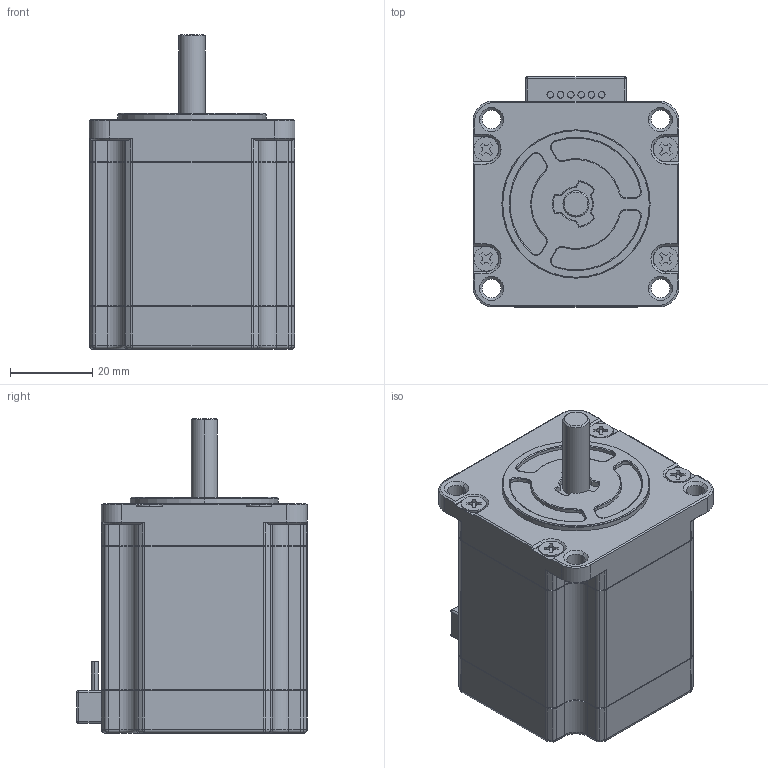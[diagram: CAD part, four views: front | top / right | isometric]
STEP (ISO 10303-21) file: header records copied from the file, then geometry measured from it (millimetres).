
FILE_DESCRIPTION (( 'STEP AP203' ), '1' );
FILE_NAME ('103H6704-0440.STEP', '2013-12-27T03:15:10', ( ' ' ), ( '' ), 'SwSTEP 2.0', 'SolidWorks 2012', '' );
FILE_SCHEMA (( 'CONFIG_CONTROL_DESIGN' ));
Length unit declared in the file: millimetre
Products named in the file (1): 103H6704-0440
Bounding box: 50 x 56 x 76.4 mm (x, y, z)
Volume: 127257.1 mm3; surface area: 16962.4 mm2
Topology: 1 solids, 1 shells, 606 faces, 1493 edges, 907 vertices
Faces by surface type: plane 220, cylinder 207, cone 111, torus 36, sphere 20, bspline 12
Entity records: 18192 total; most frequent: CARTESIAN_POINT 3634, DIRECTION 3186, ORIENTED_EDGE 2962, EDGE_CURVE 1481, AXIS2_PLACEMENT_3D 1198, VERTEX_POINT 907, LINE 790, VECTOR 790
